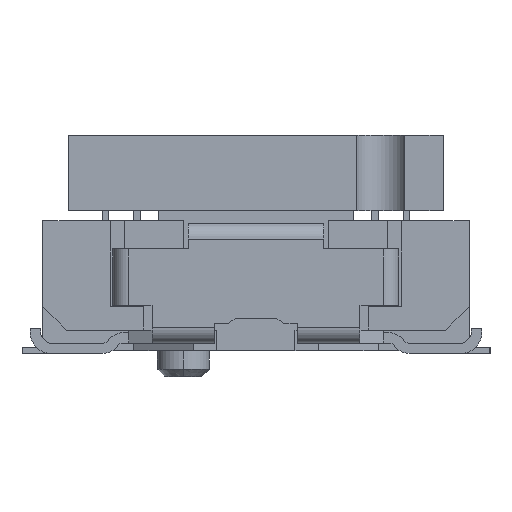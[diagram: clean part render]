
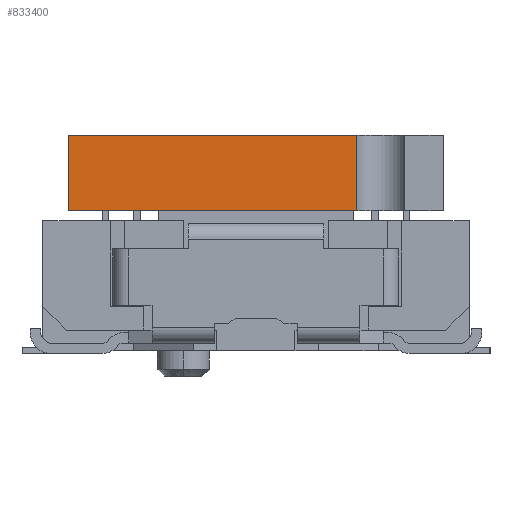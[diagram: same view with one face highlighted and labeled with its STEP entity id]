
A CAD part, left-side view. The second image highlights one B-rep face of the part: STEP entity #833400.
In plain terms, the highlighted planar face has unit normal (-1, 0, 0).
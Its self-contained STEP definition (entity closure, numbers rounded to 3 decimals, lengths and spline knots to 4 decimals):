
#461400=CARTESIAN_POINT('',(-12.6914,0.,4.));
#461410=DIRECTION('',(0.,1.,0.));
#461420=VECTOR('',#461410,1.);
#461430=LINE('',#461400,#461420);
#461550=CARTESIAN_POINT('',(-12.6914,-1.5198,4.));
#461560=VERTEX_POINT('',#461550);
#461590=CARTESIAN_POINT('',(-12.6914,4.0219,4.));
#461600=VERTEX_POINT('',#461590);
#461610=EDGE_CURVE('',#461560,#461600,#461430,.T.);
#785050=CARTESIAN_POINT('',(-12.6914,-1.5198,2.55));
#785060=VERTEX_POINT('',#785050);
#785090=CARTESIAN_POINT('',(-12.6914,-1.5198,-0.4));
#785100=DIRECTION('',(0.,0.,1.));
#785110=VECTOR('',#785100,1.);
#785120=LINE('',#785090,#785110);
#785130=EDGE_CURVE('',#785060,#461560,#785120,.T.);
#814200=CARTESIAN_POINT('',(-12.6914,0.,2.55));
#814210=DIRECTION('',(0.,-1.,0.));
#814220=VECTOR('',#814210,1.);
#814230=LINE('',#814200,#814220);
#814240=CARTESIAN_POINT('',(-12.6914,4.0219,2.55));
#814250=VERTEX_POINT('',#814240);
#814260=EDGE_CURVE('',#814250,#785060,#814230,.T.);
#833240=CARTESIAN_POINT('',(-12.6914,4.7419,2.55));
#833250=DIRECTION('',(-1.,0.,0.));
#833260=DIRECTION('',(0.,0.,1.));
#833270=AXIS2_PLACEMENT_3D('',#833240,#833250,#833260);
#833280=PLANE('',#833270);
#833290=ORIENTED_EDGE('',*,*,#814260,.T.);
#833300=CARTESIAN_POINT('',(-12.6914,4.0219,0.));
#833310=DIRECTION('',(0.,0.,-1.));
#833320=VECTOR('',#833310,1.);
#833330=LINE('',#833300,#833320);
#833340=EDGE_CURVE('',#461600,#814250,#833330,.T.);
#833350=ORIENTED_EDGE('',*,*,#833340,.T.);
#833360=ORIENTED_EDGE('',*,*,#461610,.T.);
#833370=ORIENTED_EDGE('',*,*,#785130,.T.);
#833380=EDGE_LOOP('',(#833370,#833360,#833350,#833290));
#833390=FACE_OUTER_BOUND('',#833380,.T.);
#833400=ADVANCED_FACE('',(#833390),#833280,.T.);
